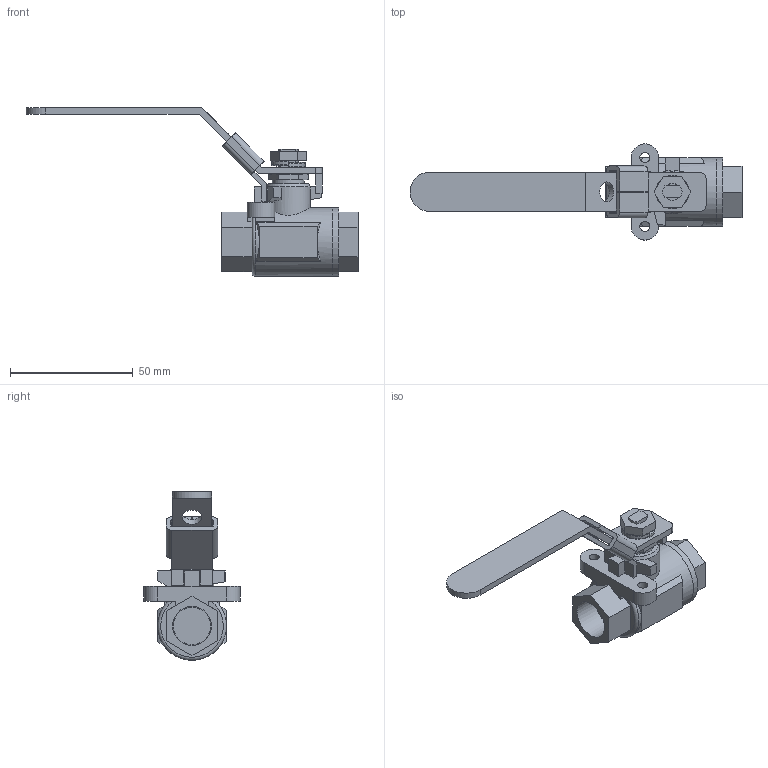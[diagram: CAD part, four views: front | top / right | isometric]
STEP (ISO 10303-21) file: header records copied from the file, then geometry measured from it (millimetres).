
FILE_DESCRIPTION((' '),'2;1');
FILE_NAME('N:\Technical Support\Private\Jomar Valve CAD\Ball Valves\CS and SS\1001N\.375 T-CS[SS]-1001N (100-972 [100-962])FusionCopy.stp.step','2017-05-12T14:24:51',(' '),(' '),' ','ACIS',' ');
FILE_SCHEMA(('CONFIG_CONTROL_DESIGN'));
Length unit declared in the file: inch
Products named in the file (9): N:\Technical Support\Private\Jomar Valve CAD\Ball Valves\CS and SS\1001N\.375 T-CS[SS]-1001N (100-972 [100-962])FusionCopy.stp.step; Body1; Body2; Body3; Body4; Body5; Body6; Body7; Body8
Assembly tree (8 placements, depth 2):
  N:\Technical Support\Private\Jomar Valve CAD\Ball Valves\CS and SS\1001N\.375 T-CS[SS]-1001N (100-972 [100-962])FusionCopy.stp.step
    Body1
    Body2
    Body3
    Body4
    Body5
    Body6
    Body7
    Body8
Bounding box: 135.43 x 39.24 x 68.79 mm (x, y, z)
Volume: 39615.1 mm3; surface area: 18823.1 mm2
Topology: 8 solids, 8 shells, 175 faces, 446 edges, 290 vertices
Faces by surface type: plane 117, cylinder 27, bspline 15, cone 11, torus 5
Full cylindrical faces by diameter (mm): 4.064 x2, 6.858 x1, 8.128 x1, 8.89 x1, 9.271 x1, 13.081 x1, 28.067 x2
Entity records: 6462 total; most frequent: CARTESIAN_POINT 1018, DIRECTION 870, ORIENTED_EDGE 850, EDGE_CURVE 425, VECTOR 314, LINE 314, VERTEX_POINT 283, AXIS2_PLACEMENT_3D 278
